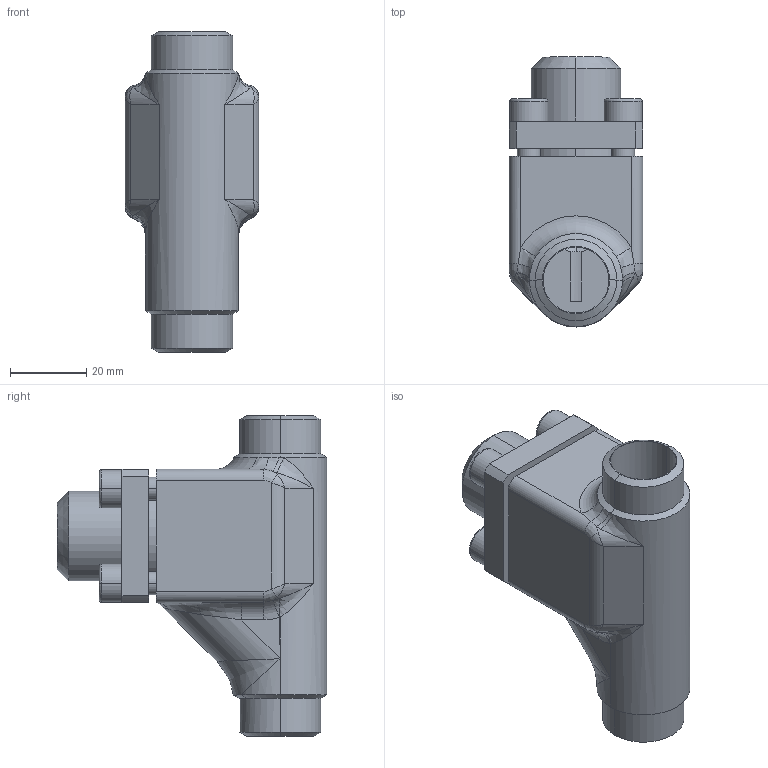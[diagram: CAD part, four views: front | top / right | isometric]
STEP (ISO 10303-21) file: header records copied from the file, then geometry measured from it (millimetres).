
FILE_DESCRIPTION (( 'STEP AP214' ), '1' );
FILE_NAME ('RV98300-DN015_R1_PS40.STEP', '2006-05-02T09:26:17', ( 'Herr Grams' ), ( 'AWP GmbH' ), 'SwSTEP 2.0', 'SolidWorks 2002296', '' );
FILE_SCHEMA (( 'AUTOMOTIVE_DESIGN' ));
Length unit declared in the file: millimetre
Products named in the file (5): RV98300-DN015_R1_PS40; RV98300E10_Deck+Schr-DN6-15_Standard; Deckel98300E10-DN6-15_PS40_Standard; Zylinderschraube-DIN912_M 6x 18; Gehäuse96300E10-DN15_PS40_R1_Standard
Assembly tree (7 placements, depth 3):
  RV98300-DN015_R1_PS40
    RV98300E10_Deck+Schr-DN6-15_Standard
      Zylinderschraube-DIN912_M 6x 18  x4
      Deckel98300E10-DN6-15_PS40_Standard
    Gehäuse96300E10-DN15_PS40_R1_Standard
Bounding box: 35 x 70.7 x 84 mm (x, y, z)
Volume: 62372.7 mm3; surface area: 25515.2 mm2
Topology: 6 solids, 6 shells, 205 faces, 477 edges, 290 vertices
Faces by surface type: plane 73, cylinder 71, bspline 29, cone 21, torus 11
Entity records: 16238 total; most frequent: CARTESIAN_POINT 12373, ORIENTED_EDGE 710, DIRECTION 672, EDGE_CURVE 355, AXIS2_PLACEMENT_3D 276, VERTEX_POINT 218, EDGE_LOOP 171, ADVANCED_FACE 151
